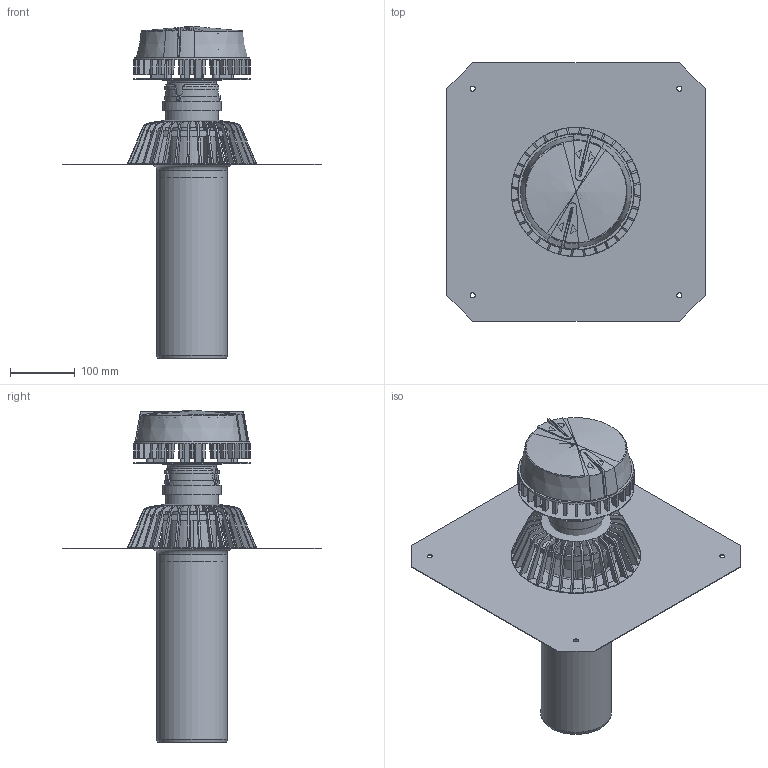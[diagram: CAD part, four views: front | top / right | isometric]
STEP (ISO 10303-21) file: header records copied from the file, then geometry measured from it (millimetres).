
FILE_DESCRIPTION(/* description */ (''),/* implementation_level */ '2;1');
FILE_NAME(/* name */ 'Z:\Geberit\Export\NewStep\PLU_Dachw-einl ART\stp\359037.stp',/* time_stamp */ '2014-04-03T19:04:30+02:00',/* author */ ('bruh'),/* organization */ (''),/* preprocessor_version */ 'ST-DEVELOPER v15.2',/* originating_system */ 'Autodesk Inventor 2014',/* authorisation */ '');
FILE_SCHEMA (('AUTOMOTIVE_DESIGN { 1 0 10303 214 3 1 1 }'));
Length unit declared in the file: millimetre
Products named in the file (8): 861.796.00.0; 861.798.16.0; 359.037.00.1  Dachwassereinlauf m AnBlech d110 6L s; 861.814.16.0 Anschl Stutzen d75; 861.827.00.0 Einlauftrichter; 861.813.16.0 Funktionshaube Pluvia; 359.034.00.1Dachwassereilauf 19 l, d75; 359037
Bounding box: 400 x 400 x 513.9 mm (x, y, z)
Volume: 1096767.3 mm3; surface area: 927380.7 mm2
Topology: 17 solids, 17 shells, 1150 faces, 3041 edges, 1840 vertices
Faces by surface type: plane 850, cylinder 242, cone 42, bspline 8, torus 4, sphere 4
Full cylindrical faces by diameter (mm): 5 x1, 6 x5, 7 x6, 8 x4, 10 x2, 13 x2, 14 x2, 50 x1, 69.05 x1, 73.2 x1, 75.2 x1, 75.35 x1, 76 x2, 82.3 x1, 84 x1, 85 x1, 90 x2, 91.3 x1, 106 x1, 108 x1, 110 x1, 178.71 x1, 180 x1, 200 x1
Entity records: 36343 total; most frequent: CARTESIAN_POINT 6807, DIRECTION 6137, ORIENTED_EDGE 6028, EDGE_CURVE 2971, AXIS2_PLACEMENT_3D 2084, LINE 1969, VECTOR 1969, VERTEX_POINT 1830
